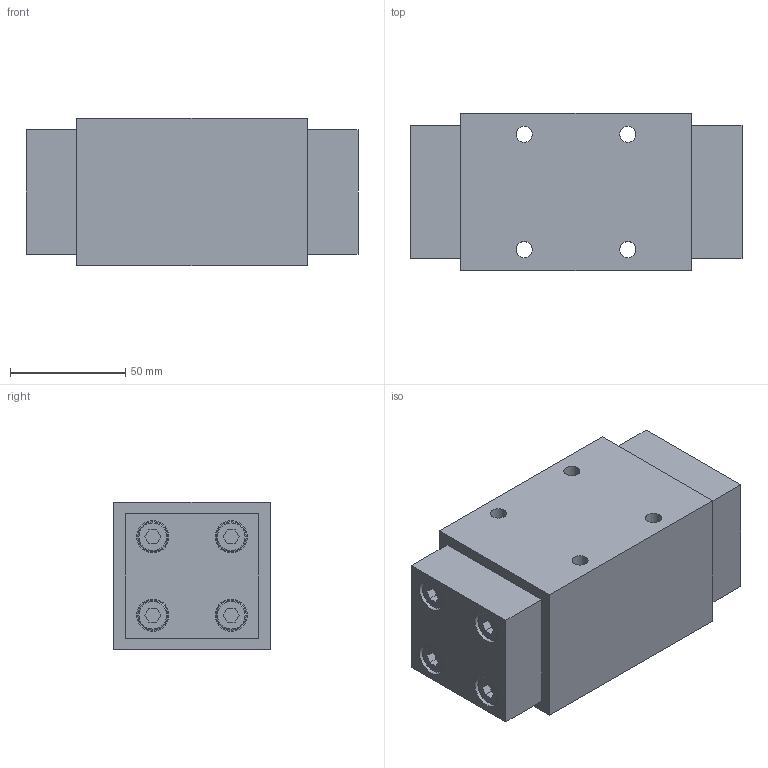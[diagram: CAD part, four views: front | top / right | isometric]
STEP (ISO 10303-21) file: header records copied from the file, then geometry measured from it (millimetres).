
FILE_DESCRIPTION(/* description */ (''),/* implementation_level */ '2;1');
FILE_NAME(/* name */ '21.stp',/* time_stamp */ '2023-05-01T20:42:26+08:00',/* author */ (''),/* organization */ (''),/* preprocessor_version */ 'ST-DEVELOPER v16.7',/* originating_system */ 'SIEMENS PLM Software NX 12.0',/* authorisation */ '');
FILE_SCHEMA (('AUTOMOTIVE_DESIGN { 1 0 10303 214 3 1 1 1 }'));
Length unit declared in the file: millimetre
Products named in the file (1): 21
Bounding box: 144 x 68 x 64 mm (x, y, z)
Volume: 554486.4 mm3; surface area: 87651.2 mm2
Topology: 11 solids, 11 shells, 234 faces, 573 edges, 380 vertices
Faces by surface type: plane 141, cylinder 66, cone 19, torus 8
Full cylindrical faces by diameter (mm): 5 x2, 6 x1, 6.8 x8, 7 x4, 8 x8, 9 x8, 12 x2, 13 x8, 14 x9
Entity records: 6234 total; most frequent: DIRECTION 1074, CARTESIAN_POINT 1018, ORIENTED_EDGE 880, EDGE_CURVE 440, AXIS2_PLACEMENT_3D 399, EDGE_LOOP 378, VERTEX_POINT 343, LINE 276
